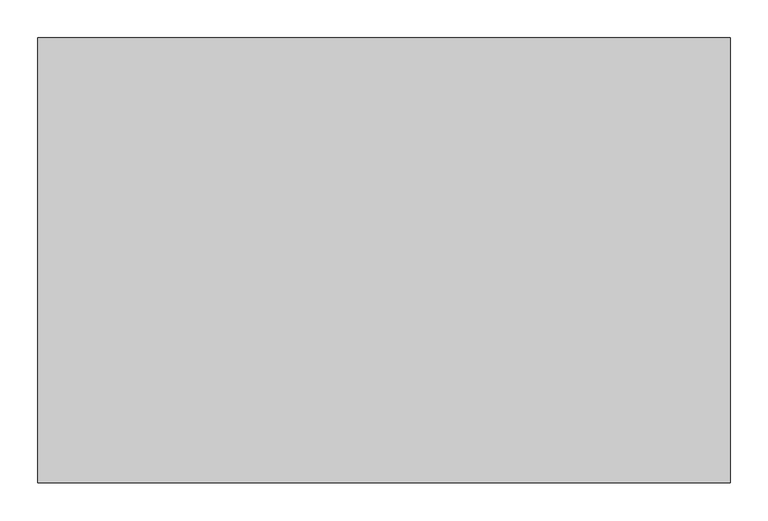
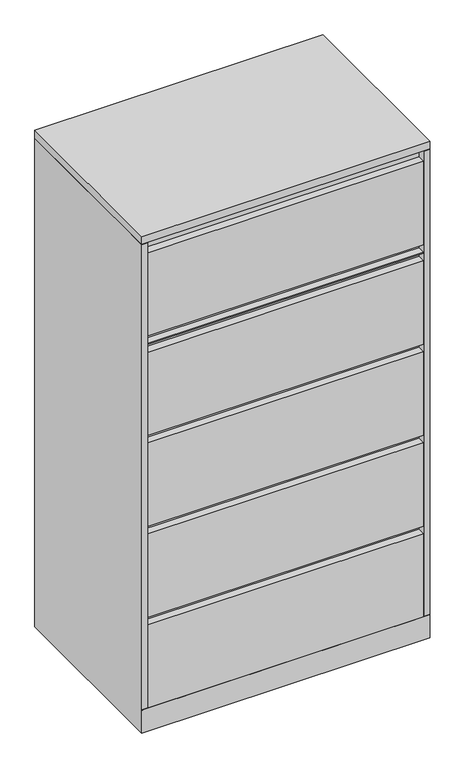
"""IFC4 building model written with IfcOpenShell, lengths in millimetres: furniture geometry, Steelcase - Universal Storage - Lateral File - 5 High - Flush Steel : 4 Drawers/1 Lift Up Door Fixed Shelf - 23 1/8D x 36W."""

from ifc_helpers import new_model, si_unit, frame, origin, place, context, project, spatial, polyline, outline, extrude, faceted_brep, source, transform, mapped, element, save


def furniture_acd1d657(model_context):
    return source(origin(), model_context, "Body", "SolidModel", [
        extrude(outline(polyline([(914.4, 587.502), (914.4, 0.0), (0.0, 0.0), (0.0, 587.502), (914.4, 587.502)])), frame((0.0, 0.0, 1638.2999516), z_axis=(0.0, 0.0, 1.0), x_axis=(1.0, 0.0, 0.0)), (0.0, 0.0, 1.0), 25.4),
        faceted_brep([(914.4, 0.0, 0.0), (914.4, 587.502, 0.0), (914.4, 587.502, 1636.7759167), (914.4, 0.0, 1636.7759167), (914.4, 0.0, 77.7239985), (914.4, 1.524, 77.7239985), (914.4, 1.524, 76.2), (914.4, 0.0, 76.2), (0.0, 0.0, 0.0), (0.0, 0.0, 76.2), (0.0, 1.524, 76.2), (0.0, 1.524, 77.7239985), (0.0, 0.0, 77.7239985), (0.0, 0.0, 1636.7759167), (0.0, 587.502, 1636.7759167), (0.0, 587.502, 0.0), (19.304, 0.0, 1636.7759167), (19.304, 25.4000121, 1636.7759167), (895.096, 25.4000121, 1636.7759167), (895.096, 0.0, 1636.7759167), (19.304, 25.4000121, 101.600003), (895.096, 25.4000121, 101.600003), (19.304, 1.524, 101.600003), (895.096, 1.524, 101.600003), (895.096, 1.524, 77.7239985), (19.304, 1.524, 77.7239985), (19.304, 0.0, 77.7239985), (895.096, 0.0, 77.7239985)], [[[0, 1, 2, 3, 4, 5, 6, 7]], [[8, 9, 10, 11, 12, 13, 14, 15]], [[1, 0, 8, 15]], [[2, 1, 15, 14]], [[3, 2, 14, 13, 16, 17, 18, 19]], [[17, 20, 21, 18]], [[20, 22, 23, 21]], [[10, 6, 5, 24, 23, 22, 25, 11]], [[7, 6, 10, 9]], [[0, 7, 9, 8]], [[17, 16, 26, 25, 22, 20]], [[26, 16, 13, 12]], [[25, 26, 12, 11]], [[24, 27, 19, 18, 21, 23]], [[27, 24, 5, 4]], [[19, 27, 4, 3]]]),
        extrude(outline(polyline([(889.0000242, 562.1019992), (889.0000242, 25.4000121), (25.4000008, 25.4000121), (25.4000008, 562.1019992), (889.0000242, 562.1019992)])), frame((0.0, 0.0, 1636.7759167), z_axis=(0.0, 0.0, 1.0), x_axis=(1.0, 0.0, 0.0)), (0.0, 0.0, 1.0), 1.5240349),
        extrude(outline(polyline([(893.5719835, 0.0), (20.8280006, 0.0), (20.8280006, 25.4000121), (893.5719835, 25.4000121), (893.5719835, 0.0)])), frame((0.0, 0.0, 1295.4), z_axis=(0.0, 0.0, 1.0), x_axis=(1.0, 0.0, 0.0)), (0.0, 0.0, 1.0), 3.1749516),
        extrude(outline(polyline([(893.5719835, 0.0), (20.8280006, 0.0), (20.8280006, 25.4000121), (893.5719835, 25.4000121), (893.5719835, 0.0)])), frame((0.0, 0.0, 1323.975), z_axis=(0.0, 0.0, 1.0), x_axis=(1.0, 0.0, 0.0)), (0.0, 0.0, 1.0), 279.4),
        extrude(outline(polyline([(893.5719835, 0.0), (20.8280006, 0.0), (20.8280006, 25.4000121), (893.5719835, 25.4000121), (893.5719835, 0.0)])), frame((0.0, 0.0, 990.6), z_axis=(0.0, 0.0, 1.0), x_axis=(1.0, 0.0, 0.0)), (0.0, 0.0, 1.0), 279.4),
        extrude(outline(polyline([(893.5719835, 0.0), (20.8280006, 0.0), (20.8280006, 25.4000121), (893.5719835, 25.4000121), (893.5719835, 0.0)])), frame((0.0, 0.0, 685.8), z_axis=(0.0, 0.0, 1.0), x_axis=(1.0, 0.0, 0.0)), (0.0, 0.0, 1.0), 279.4),
        extrude(outline(polyline([(893.5719835, 0.0), (20.8280006, 0.0), (20.8280006, 25.4000121), (893.5719835, 25.4000121), (893.5719835, 0.0)])), frame((0.0, 0.0, 381.0), z_axis=(0.0, 0.0, 1.0), x_axis=(1.0, 0.0, 0.0)), (0.0, 0.0, 1.0), 279.4),
        extrude(outline(polyline([(893.5719835, 0.0), (20.8280006, 0.0), (20.8280006, 25.4000121), (893.5719835, 25.4000121), (893.5719835, 0.0)])), frame((0.0, 0.0, 77.7239985), z_axis=(0.0, 0.0, 1.0), x_axis=(1.0, 0.0, 0.0)), (0.0, 0.0, 1.0), 277.8759893),
    ])


if __name__ == "__main__":
    model = new_model("IFC4")
    model_context = context("Model", 3, world=origin())
    ifc_project = project(units=[si_unit("LENGTHUNIT", "METRE", prefix="MILLI")], contexts=[model_context])
    site = spatial("IfcSite", under=ifc_project)
    building = spatial("IfcBuilding", under=site)
    placement = place(None, origin())
    furniture_shape = furniture_acd1d657(model_context)
    element("IfcFurniture", 1, ObjectType="Steelcase - Universal Storage - Lateral File - 5 High - Flush Steel : 4 Drawers/1 Lift Up Door Fixed Shelf - 23 1/8D x 36W", at=placement, inside=building, context=model_context, shape_type="MappedRepresentation", body=[
        mapped(furniture_shape, transform((0.0, 0.0, 0.0), x_axis=(1.0, 0.0, 0.0), y_axis=(0.0, 1.0, 0.0), z_axis=(0.0, 0.0, 1.0))),
    ])
    save(model, "model.ifc")
